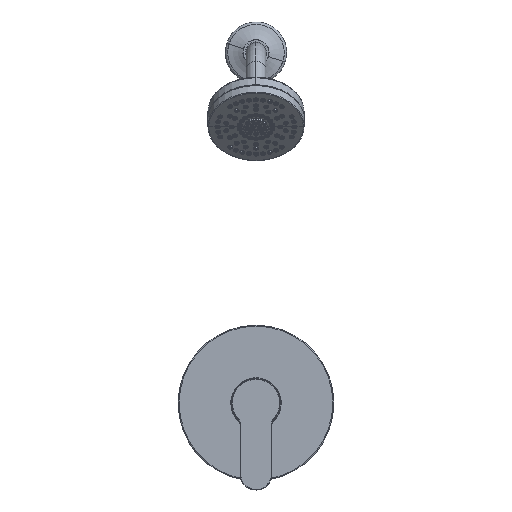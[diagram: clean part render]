
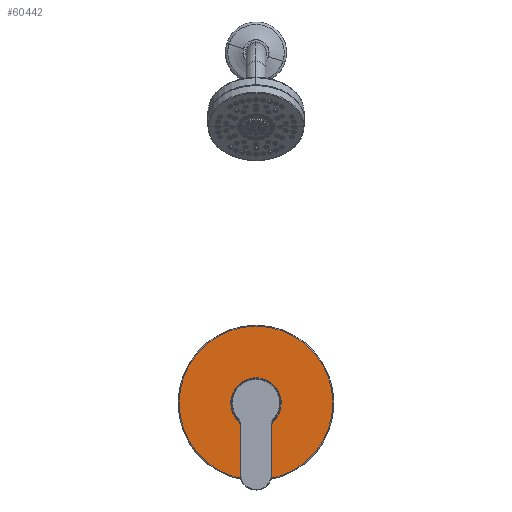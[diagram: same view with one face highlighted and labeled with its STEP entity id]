
A CAD part, top view. The second image highlights one B-rep face of the part: STEP entity #60442.
In plain terms, the highlighted planar face has unit normal (0, 0, 1).
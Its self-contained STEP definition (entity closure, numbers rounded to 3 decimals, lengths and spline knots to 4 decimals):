
#3127 = CIRCLE ( 'NONE', #121762, 3.1306 ) ;
#6273 = CIRCLE ( 'NONE', #107490, 1.0255 ) ;
#7264 = DIRECTION ( 'NONE',  ( 1., 0., 0. ) ) ;
#8974 = ORIENTED_EDGE ( 'NONE', *, *, #177262, .T. ) ;
#9398 = CARTESIAN_POINT ( 'NONE',  ( 1.8412, 2.4625, 5.2986 ) ) ;
#11956 = CIRCLE ( 'NONE', #14808, 3.1306 ) ;
#14808 = AXIS2_PLACEMENT_3D ( 'NONE', #114935, #170134, #156552 ) ;
#25692 = VECTOR ( 'NONE', #111285, 39.3701 ) ;
#26503 = FACE_BOUND ( 'NONE', #145566, .T. ) ;
#28351 = VERTEX_POINT ( 'NONE', #147002 ) ;
#31927 = LINE ( 'NONE', #73573, #90735 ) ;
#35389 = AXIS2_PLACEMENT_3D ( 'NONE', #158124, #63074, #130988 ) ;
#39496 = EDGE_CURVE ( 'NONE', #73554, #97373, #125114, .T. ) ;
#40087 = CARTESIAN_POINT ( 'NONE',  ( 1.9687, 3.7325, 5.2986 ) ) ;
#40226 = VERTEX_POINT ( 'NONE', #91424 ) ;
#40992 = FACE_OUTER_BOUND ( 'NONE', #157746, .T. ) ;
#45552 = EDGE_CURVE ( 'NONE', #97373, #40226, #31927, .T. ) ;
#46562 = ORIENTED_EDGE ( 'NONE', *, *, #119704, .T. ) ;
#50064 = DIRECTION ( 'NONE',  ( 1., 0., 0. ) ) ;
#50953 = DIRECTION ( 'NONE',  ( 0., 0., 1. ) ) ;
#56049 = CARTESIAN_POINT ( 'NONE',  ( 1.8412, 2.4625, 5.2986 ) ) ;
#57964 = ORIENTED_EDGE ( 'NONE', *, *, #45552, .F. ) ;
#58631 = CARTESIAN_POINT ( 'NONE',  ( 2.0962, 2.4625, 5.2986 ) ) ;
#60442 = ADVANCED_FACE ( 'NONE', ( #26503, #40992 ), #164070, .T. ) ;
#61874 = CARTESIAN_POINT ( 'NONE',  ( 1.9687, 3.7325, 5.2986 ) ) ;
#63074 = DIRECTION ( 'NONE',  ( 0., 0., 1. ) ) ;
#73554 = VERTEX_POINT ( 'NONE', #9398 ) ;
#73573 = CARTESIAN_POINT ( 'NONE',  ( 2.0962, 2.4625, 5.2986 ) ) ;
#83546 = DIRECTION ( 'NONE',  ( 1., 0., 0. ) ) ;
#88572 = ORIENTED_EDGE ( 'NONE', *, *, #139232, .F. ) ;
#90735 = VECTOR ( 'NONE', #144139, 39.3701 ) ;
#91424 = CARTESIAN_POINT ( 'NONE',  ( 2.0962, 2.715, 5.2986 ) ) ;
#97373 = VERTEX_POINT ( 'NONE', #58631 ) ;
#100381 = VERTEX_POINT ( 'NONE', #153987 ) ;
#107490 = AXIS2_PLACEMENT_3D ( 'NONE', #144844, #159299, #7264 ) ;
#111285 = DIRECTION ( 'NONE',  ( 0., -1., 0. ) ) ;
#114935 = CARTESIAN_POINT ( 'NONE',  ( 1.9687, 3.7325, 5.2986 ) ) ;
#115405 = VERTEX_POINT ( 'NONE', #127837 ) ;
#119704 = EDGE_CURVE ( 'NONE', #28351, #115405, #3127, .T. ) ;
#121570 = DIRECTION ( 'NONE',  ( 0., 0., 1. ) ) ;
#121762 = AXIS2_PLACEMENT_3D ( 'NONE', #61874, #50953, #50064 ) ;
#125114 = CIRCLE ( 'NONE', #35389, 0.1275 ) ;
#127008 = ORIENTED_EDGE ( 'NONE', *, *, #39496, .F. ) ;
#127529 = LINE ( 'NONE', #56049, #25692 ) ;
#127837 = CARTESIAN_POINT ( 'NONE',  ( -1.162, 3.7325, 5.2986 ) ) ;
#130988 = DIRECTION ( 'NONE',  ( 1., 0., 0. ) ) ;
#132960 = AXIS2_PLACEMENT_3D ( 'NONE', #40087, #121570, #83546 ) ;
#139232 = EDGE_CURVE ( 'NONE', #100381, #73554, #127529, .T. ) ;
#144139 = DIRECTION ( 'NONE',  ( 0., 1., 0. ) ) ;
#144844 = CARTESIAN_POINT ( 'NONE',  ( 1.9687, 3.7325, 5.2986 ) ) ;
#145566 = EDGE_LOOP ( 'NONE', ( #88572, #166624, #57964, #127008 ) ) ;
#146022 = EDGE_CURVE ( 'NONE', #40226, #100381, #6273, .T. ) ;
#147002 = CARTESIAN_POINT ( 'NONE',  ( 5.0993, 3.7325, 5.2986 ) ) ;
#153987 = CARTESIAN_POINT ( 'NONE',  ( 1.8412, 2.715, 5.2986 ) ) ;
#156552 = DIRECTION ( 'NONE',  ( 1., 0., 0. ) ) ;
#157746 = EDGE_LOOP ( 'NONE', ( #46562, #8974 ) ) ;
#158124 = CARTESIAN_POINT ( 'NONE',  ( 1.9687, 2.4625, 5.2986 ) ) ;
#159299 = DIRECTION ( 'NONE',  ( 0., 0., 1. ) ) ;
#164070 = PLANE ( 'NONE',  #132960 ) ;
#166624 = ORIENTED_EDGE ( 'NONE', *, *, #146022, .F. ) ;
#170134 = DIRECTION ( 'NONE',  ( 0., 0., 1. ) ) ;
#177262 = EDGE_CURVE ( 'NONE', #115405, #28351, #11956, .T. ) ;
